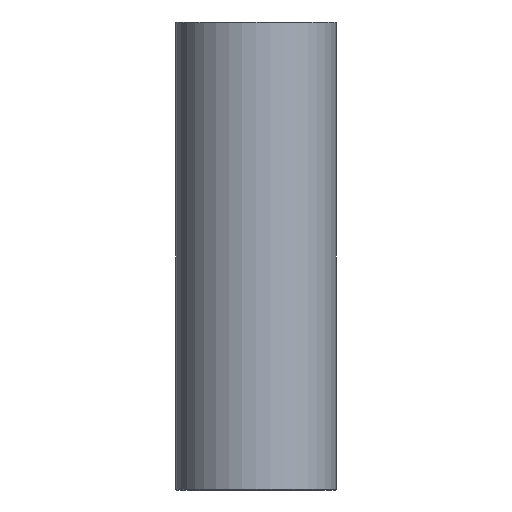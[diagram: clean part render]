
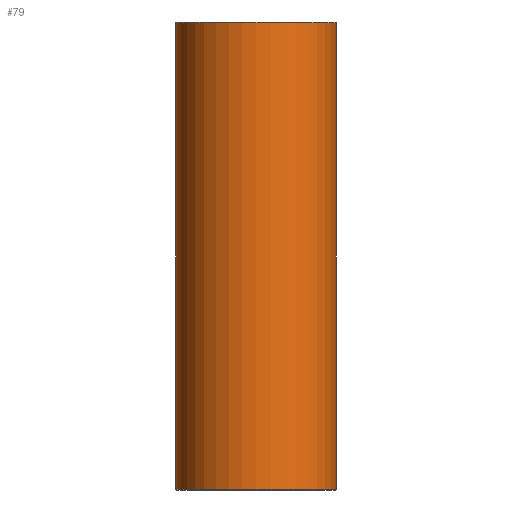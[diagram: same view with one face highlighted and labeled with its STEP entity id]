
A CAD part, front view. The second image highlights one B-rep face of the part: STEP entity #79.
In plain terms, the highlighted cylindrical face has radius 24 mm (diameter 48 mm), a full revolution.
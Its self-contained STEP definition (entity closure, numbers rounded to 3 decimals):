
#79=ADVANCED_FACE('',(#96,#97),#98,.T.);
#96=FACE_OUTER_BOUND('',#120,.T.);
#97=FACE_OUTER_BOUND('',#121,.T.);
#98=CYLINDRICAL_SURFACE('',#122,24.0);
#120=EDGE_LOOP('',(#152));
#121=EDGE_LOOP('',(#153));
#122=AXIS2_PLACEMENT_3D('',#154,#155,#156);
#152=ORIENTED_EDGE('',*,*,#178,.T.);
#153=ORIENTED_EDGE('',*,*,#177,.T.);
#154=CARTESIAN_POINT('',(0.,0.0,140.0));
#155=DIRECTION('',(0.0,0.0,-1.0));
#156=DIRECTION('',(-1.0,0.0,0.0));
#177=EDGE_CURVE('',#190,#190,#191,.T.);
#178=EDGE_CURVE('',#192,#192,#193,.F.);
#190=VERTEX_POINT('',#206);
#191=CIRCLE('',#207,24.0);
#192=VERTEX_POINT('',#208);
#193=CIRCLE('',#209,24.0);
#206=CARTESIAN_POINT('',(24.0,0.0,0.2));
#207=AXIS2_PLACEMENT_3D('',#227,#228,#229);
#208=CARTESIAN_POINT('',(24.0,0.,139.8));
#209=AXIS2_PLACEMENT_3D('',#230,#231,#232);
#227=CARTESIAN_POINT('',(0.,0.0,0.2));
#228=DIRECTION('',(0.0,0.0,1.0));
#229=DIRECTION('',(1.0,0.0,0.0));
#230=CARTESIAN_POINT('',(0.,0.0,139.8));
#231=DIRECTION('',(0.0,0.0,1.0));
#232=DIRECTION('',(1.0,0.0,0.0));
